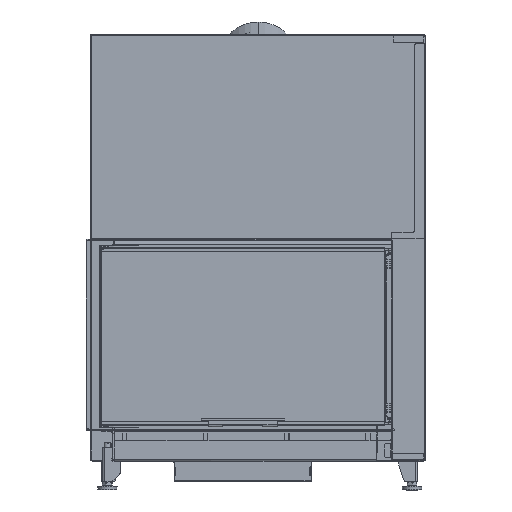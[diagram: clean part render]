
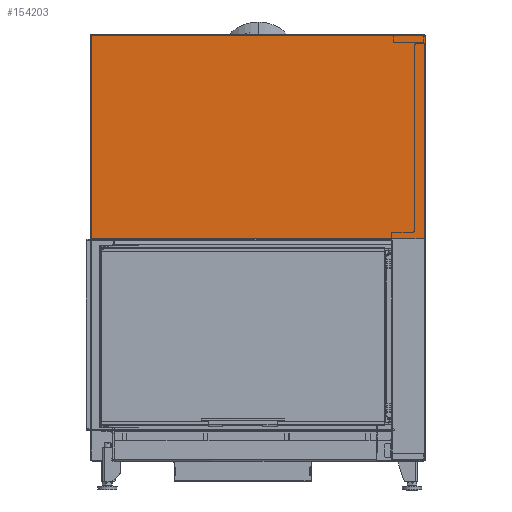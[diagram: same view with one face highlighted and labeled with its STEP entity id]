
A CAD part, front view. The second image highlights one B-rep face of the part: STEP entity #154203.
In plain terms, the highlighted planar face has unit normal (0, -1, 0).
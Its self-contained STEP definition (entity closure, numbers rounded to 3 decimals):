
#7774=FACE_OUTER_BOUND('',#16255,.T.);
#16255=EDGE_LOOP('',(#105614,#105615,#105616,#105617,#105618,#105619,#105620,
#105621,#105622,#105623,#105624));
#23226=LINE('',#220433,#37945);
#23230=LINE('',#220442,#37949);
#23232=LINE('',#220446,#37951);
#26718=LINE('',#233562,#41437);
#26726=LINE('',#233579,#41445);
#26727=LINE('',#233582,#41446);
#26728=LINE('',#233584,#41447);
#26729=LINE('',#233585,#41448);
#37945=VECTOR('',#176345,10.);
#37949=VECTOR('',#176355,10.);
#37951=VECTOR('',#176359,10.);
#41437=VECTOR('',#187117,10.);
#41445=VECTOR('',#187129,10.);
#41446=VECTOR('',#187132,10.);
#41447=VECTOR('',#187133,10.);
#41448=VECTOR('',#187134,10.);
#52475=CIRCLE('',#161025,0.1);
#52477=CIRCLE('',#161030,3.);
#54161=CIRCLE('',#164666,3.);
#58382=VERTEX_POINT('',#220430);
#58383=VERTEX_POINT('',#220432);
#58384=VERTEX_POINT('',#220436);
#58385=VERTEX_POINT('',#220440);
#58386=VERTEX_POINT('',#220444);
#58388=VERTEX_POINT('',#220450);
#61799=VERTEX_POINT('',#233559);
#61800=VERTEX_POINT('',#233561);
#61807=VERTEX_POINT('',#233578);
#61808=VERTEX_POINT('',#233581);
#61809=VERTEX_POINT('',#233583);
#72341=EDGE_CURVE('',#58382,#58383,#23226,.T.);
#72344=EDGE_CURVE('',#58384,#58382,#52475,.T.);
#72346=EDGE_CURVE('',#58385,#58384,#23230,.T.);
#72348=EDGE_CURVE('',#58386,#58385,#23232,.T.);
#72351=EDGE_CURVE('',#58386,#58388,#52477,.T.);
#77764=EDGE_CURVE('',#61799,#61800,#26718,.T.);
#77772=EDGE_CURVE('',#61807,#58388,#26726,.T.);
#77773=EDGE_CURVE('',#61807,#61800,#54161,.T.);
#77774=EDGE_CURVE('',#61808,#61799,#26727,.T.);
#77775=EDGE_CURVE('',#61809,#61808,#26728,.T.);
#77776=EDGE_CURVE('',#58383,#61809,#26729,.T.);
#105614=ORIENTED_EDGE('',*,*,#72351,.T.);
#105615=ORIENTED_EDGE('',*,*,#77772,.F.);
#105616=ORIENTED_EDGE('',*,*,#77773,.T.);
#105617=ORIENTED_EDGE('',*,*,#77764,.F.);
#105618=ORIENTED_EDGE('',*,*,#77774,.F.);
#105619=ORIENTED_EDGE('',*,*,#77775,.F.);
#105620=ORIENTED_EDGE('',*,*,#77776,.F.);
#105621=ORIENTED_EDGE('',*,*,#72341,.F.);
#105622=ORIENTED_EDGE('',*,*,#72344,.F.);
#105623=ORIENTED_EDGE('',*,*,#72346,.F.);
#105624=ORIENTED_EDGE('',*,*,#72348,.F.);
#139686=PLANE('',#164665);
#154203=ADVANCED_FACE('',(#7774),#139686,.F.);
#161025=AXIS2_PLACEMENT_3D('',#220438,#176350,#176351);
#161030=AXIS2_PLACEMENT_3D('',#220452,#176365,#176366);
#164665=AXIS2_PLACEMENT_3D('',#233577,#187127,#187128);
#164666=AXIS2_PLACEMENT_3D('',#233580,#187130,#187131);
#176345=DIRECTION('',(0.,0.,-1.));
#176350=DIRECTION('center_axis',(0.,-1.,
0.));
#176351=DIRECTION('ref_axis',(-1.,0.,0.));
#176355=DIRECTION('',(0.,0.,1.));
#176359=DIRECTION('',(-1.,0.,0.));
#176365=DIRECTION('center_axis',(0.,-1.,
0.));
#176366=DIRECTION('ref_axis',(0.707,0.,-0.707));
#187117=DIRECTION('',(1.,0.,0.));
#187127=DIRECTION('center_axis',(0.,1.,
0.));
#187128=DIRECTION('ref_axis',(-1.,0.,0.));
#187129=DIRECTION('',(0.,0.,-1.));
#187130=DIRECTION('center_axis',(0.,-1.,
0.));
#187131=DIRECTION('ref_axis',(0.707,0.,0.707));
#187132=DIRECTION('',(1.,0.,0.));
#187133=DIRECTION('',(0.,0.,1.));
#187134=DIRECTION('',(-1.,0.,0.));
#220430=CARTESIAN_POINT('',(-87.4,-59.983,582.359));
#220432=CARTESIAN_POINT('',(-87.4,-59.983,582.259));
#220433=CARTESIAN_POINT('',(-87.4,-59.979,715.947));
#220436=CARTESIAN_POINT('',(-87.2,-59.983,582.359));
#220438=CARTESIAN_POINT('Origin',(-87.3,-59.983,582.359));
#220440=CARTESIAN_POINT('',(-87.2,-59.983,582.259));
#220442=CARTESIAN_POINT('',(-87.2,-59.979,715.997));
#220444=CARTESIAN_POINT('',(-3.,-59.983,582.259));
#220446=CARTESIAN_POINT('',(0.,-59.983,582.259));
#220450=CARTESIAN_POINT('',(0.,-59.983,585.259));
#220452=CARTESIAN_POINT('Origin',(-3.,-59.983,585.259));
#233559=CARTESIAN_POINT('',(-84.15,-59.968,1114.259));
#233561=CARTESIAN_POINT('',(-3.,-59.968,1114.259));
#233562=CARTESIAN_POINT('',(-84.15,-59.968,1114.259));
#233577=CARTESIAN_POINT('Origin',(-480.775,-59.975,849.634));
#233578=CARTESIAN_POINT('',(0.,-59.968,1111.259));
#233579=CARTESIAN_POINT('',(0.,-59.968,1114.259));
#233580=CARTESIAN_POINT('Origin',(-3.,-59.968,1111.259));
#233581=CARTESIAN_POINT('',(-874.65,-59.968,1114.259));
#233582=CARTESIAN_POINT('',(-679.088,-59.968,1114.259));
#233583=CARTESIAN_POINT('',(-874.65,-59.983,582.259));
#233584=CARTESIAN_POINT('',(-874.65,-59.979,715.947));
#233585=CARTESIAN_POINT('',(0.,-59.983,582.259));
